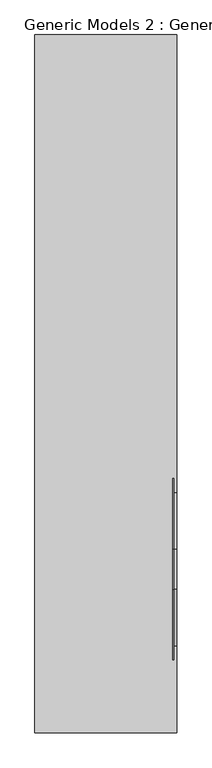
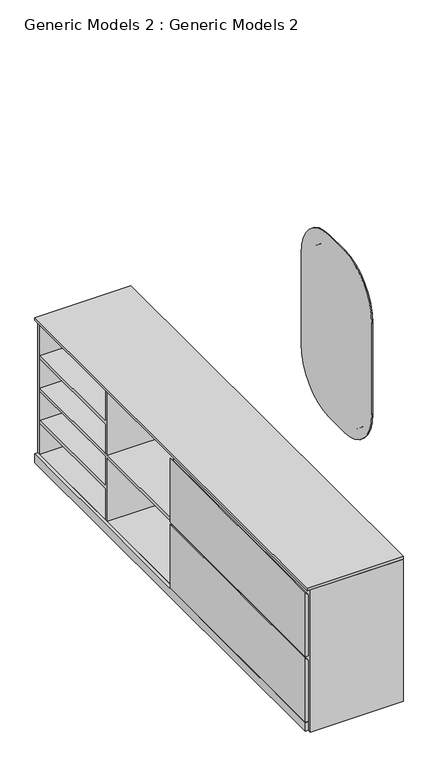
"""IFC4 building model written with IfcOpenShell, lengths in millimetres: proxy geometry, Generic Models 2 : Generic Models 2."""

from ifc_helpers import new_model, si_unit, point, frame, frame_2d, origin, origin_with_axes, place, context, project, spatial, polyline, circle_curve, trimmed, segment, composite_curve, outline, extrude, faceted_brep, source, transform, mapped, element, save


def generic_models_2_generic_models_2_158e1299(model_context):
    return source(origin(), model_context, "Body", "SolidModel", [
        extrude(outline(composite_curve([segment(polyline([(10164.1383306, 2183.7166546), (10304.1383306, 2183.7166546)]), True, "CONTINUOUS"), segment(trimmed(circle_curve(frame_2d((10304.1383306, 1933.7166546)), 250.0), [point((10304.1383306, 2183.7166546))], [point((10554.1383306, 1933.7166546))], False, "CARTESIAN"), True, "CONTINUOUS"), segment(polyline([(10554.1383306, 1933.7166546), (10554.1383306, 1433.7166546)]), True, "CONTINUOUS"), segment(trimmed(circle_curve(frame_2d((10304.1383306, 1433.7166546)), 250.0), [point((10554.1383306, 1433.7166546))], [point((10304.1383306, 1183.7166546))], False, "CARTESIAN"), True, "CONTINUOUS"), segment(polyline([(10304.1383306, 1183.7166546), (10164.1383306, 1183.7166546)]), True, "CONTINUOUS"), segment(trimmed(circle_curve(frame_2d((10164.1383306, 1433.7166546)), 250.0), [point((10164.1383306, 1183.7166546))], [point((9914.1383306, 1433.7166546))], False, "CARTESIAN"), True, "CONTINUOUS"), segment(polyline([(9914.1383306, 1433.7166546), (9914.1383306, 1933.7166546)]), True, "CONTINUOUS"), segment(trimmed(circle_curve(frame_2d((10164.1383306, 1933.7166546)), 250.0), [point((9914.1383306, 1933.7166546))], [point((10164.1383306, 2183.7166546))], False, "CARTESIAN"), True, "CONTINUOUS")], self_intersect=False)), frame((14071.3756115, 0.0, 0.0), z_axis=(1.0, 0.0, 0.0), x_axis=(0.0, 1.0, 0.0)), (0.0, 0.0, 1.0), 5.0),
        extrude(outline(composite_curve([segment(polyline([(10304.1383306, 1233.7166546), (10164.1383306, 1233.7166546)]), True, "CONTINUOUS"), segment(trimmed(circle_curve(frame_2d((10164.1383306, 1433.7166546)), 200.0), [point((10164.1383306, 1233.7166546))], [point((9964.1383306, 1433.7166546))], False, "CARTESIAN"), True, "CONTINUOUS"), segment(polyline([(9964.1383306, 1433.7166546), (9964.1383306, 1933.7166546)]), True, "CONTINUOUS"), segment(trimmed(circle_curve(frame_2d((10164.1383306, 1933.7166546)), 200.0), [point((9964.1383306, 1933.7166546))], [point((10164.1383306, 2133.7166546))], False, "CARTESIAN"), True, "CONTINUOUS"), segment(polyline([(10164.1383306, 2133.7166546), (10304.1383306, 2133.7166546)]), True, "CONTINUOUS"), segment(trimmed(circle_curve(frame_2d((10304.1383306, 1933.7166546)), 200.0), [point((10304.1383306, 2133.7166546))], [point((10504.1383306, 1933.7166546))], False, "CARTESIAN"), True, "CONTINUOUS"), segment(polyline([(10504.1383306, 1933.7166546), (10504.1383306, 1433.7166546)]), True, "CONTINUOUS"), segment(trimmed(circle_curve(frame_2d((10304.1383306, 1433.7166546)), 200.0), [point((10504.1383306, 1433.7166546))], [point((10304.1383306, 1233.7166546))], False, "CARTESIAN"), True, "CONTINUOUS")], self_intersect=False), holes=[composite_curve([segment(trimmed(circle_curve(frame_2d((10164.1383306, 1933.7166546)), 170.0), [point((10164.1383306, 2103.7166546))], [point((9994.1383306, 1933.7166546))], True, "CARTESIAN"), True, "CONTINUOUS"), segment(polyline([(9994.1383306, 1933.7166546), (9994.1383306, 1433.7166546)]), True, "CONTINUOUS"), segment(trimmed(circle_curve(frame_2d((10164.1383306, 1433.7166546)), 170.0), [point((9994.1383306, 1433.7166546))], [point((10164.1383306, 1263.7166546))], True, "CARTESIAN"), True, "CONTINUOUS"), segment(polyline([(10164.1383306, 1263.7166546), (10304.1383306, 1263.7166546)]), True, "CONTINUOUS"), segment(trimmed(circle_curve(frame_2d((10304.1383306, 1433.7166546)), 170.0), [point((10304.1383306, 1263.7166546))], [point((10474.1383306, 1433.7166546))], True, "CARTESIAN"), True, "CONTINUOUS"), segment(polyline([(10474.1383306, 1433.7166546), (10474.1383306, 1933.7166546)]), True, "CONTINUOUS"), segment(trimmed(circle_curve(frame_2d((10304.1383306, 1933.7166546)), 170.0), [point((10474.1383306, 1933.7166546))], [point((10304.1383306, 2103.7166546))], True, "CARTESIAN"), True, "CONTINUOUS"), segment(polyline([(10304.1383306, 2103.7166546), (10164.1383306, 2103.7166546)]), True, "CONTINUOUS")], self_intersect=False)]), frame((14076.3756115, 0.0, 0.0), z_axis=(1.0, 0.0, 0.0), x_axis=(0.0, 1.0, 0.0)), (0.0, 0.0, 1.0), 10.0),
        extrude(outline(polyline([(11507.3664981, 764.0), (11507.3664981, 593.5), (12102.2664981, 593.5), (12102.2664981, 577.5), (11507.3664981, 577.5), (11507.3664981, 415.0), (12102.2664981, 415.0), (12102.2664981, 399.0), (11507.3664981, 399.0), (11507.3664981, 236.5), (12102.2664981, 236.5), (12102.2664981, 220.5), (11507.3664981, 220.5), (11507.3664981, 50.0), (11491.3664981, 50.0), (11491.3664981, 399.1025943), (10896.4664981, 399.1025943), (10896.4664981, 415.1025943), (11491.3664981, 415.1025943), (11491.3664981, 764.0), (11507.3664981, 764.0)])), frame((13602.3756115, 0.0, 0.0), z_axis=(1.0, 0.0, 0.0), x_axis=(0.0, 1.0, 0.0)), (0.0, 0.0, 1.0), 460.0),
        extrude(outline(polyline([(13586.3756115, 9658.6664981), (13586.3756115, 12118.2664981), (14086.3756115, 12118.2664981), (14086.3756115, 9658.6664981), (13586.3756115, 9658.6664981)])), frame((0.0, 0.0, 784.0), z_axis=(0.0, 0.0, 1.0), x_axis=(1.0, 0.0, 0.0)), (0.0, 0.0, 1.0), 16.0),
        extrude(outline(polyline([(402.0, 13586.3756115), (50.0, 13586.3756115), (50.0, 13602.3756115), (386.0, 13602.3756115), (402.0, 13586.3756115)])), frame((0.0, 9674.6664981, 0.0), z_axis=(0.0, 1.0, 0.0), x_axis=(0.0, 0.0, 1.0)), (0.0, 0.0, 1.0), 1221.8),
        extrude(outline(polyline([(13586.3756115, 9674.6664981), (13586.3756115, 12118.2664981), (13602.3756115, 12118.2664981), (13602.3756115, 9674.6664981), (13586.3756115, 9674.6664981)])), origin_with_axes(), (0.0, 0.0, 1.0), 48.0),
        extrude(outline(polyline([(764.0, 13586.3756115), (412.0, 13586.3756115), (412.0, 13602.3756115), (748.0, 13602.3756115), (764.0, 13586.3756115)])), frame((0.0, 9674.6664981, 0.0), z_axis=(0.0, 1.0, 0.0), x_axis=(0.0, 0.0, 1.0)), (0.0, 0.0, 1.0), 1221.8),
        faceted_brep([(13602.3756115, 9658.6664981, 784.0), (14086.3756115, 9658.6664981, 784.0), (14086.3756115, 12118.2664981, 784.0), (13602.3756115, 12118.2664981, 784.0), (13602.3756115, 9658.6664981, 0.0), (13602.3756115, 12118.2664981, 0.0), (14086.3756115, 12118.2664981, 0.0), (14086.3756115, 9658.6664981, 0.0), (13602.3756115, 12102.2664981, 50.0), (13602.3756115, 12102.2664981, 764.0), (13602.3756115, 10896.4664981, 764.0), (13602.3756115, 10896.4664981, 50.0), (14062.3756115, 12102.2664981, 50.0), (14062.3756115, 10896.4664981, 50.0), (14062.3756115, 10896.4664981, 764.0), (14062.3756115, 12102.2664981, 764.0)], [[[0, 1, 2, 3]], [[4, 5, 6, 7]], [[1, 0, 4, 7]], [[2, 1, 7, 6]], [[3, 2, 6, 5]], [[0, 3, 5, 4], [8, 9, 10, 11]], [[12, 13, 14, 15]], [[12, 15, 9, 8]], [[15, 14, 10, 9]], [[14, 13, 11, 10]], [[13, 12, 8, 11]]]),
    ])


if __name__ == "__main__":
    model = new_model("IFC4")
    model_context = context("Model", 3, world=origin())
    ifc_project = project(units=[si_unit("LENGTHUNIT", "METRE", prefix="MILLI")], contexts=[model_context])
    site = spatial("IfcSite", under=ifc_project)
    building = spatial("IfcBuilding", under=site)
    placement = place(None, origin())
    generic_models_2_generic_models_2_shape = generic_models_2_generic_models_2_158e1299(model_context)
    element("IfcBuildingElementProxy", 1, Name="Generic Models 2 : Generic Models 2", ObjectType="Generic Models 2 : Generic Models 2", at=placement, inside=building, context=model_context, shape_type="MappedRepresentation", body=[
        mapped(generic_models_2_generic_models_2_shape, transform((0.0, 0.0, 0.0), x_axis=(1.0, 0.0, 0.0), y_axis=(0.0, 1.0, 0.0), z_axis=(0.0, 0.0, 1.0))),
    ])
    save(model, "model.ifc")
